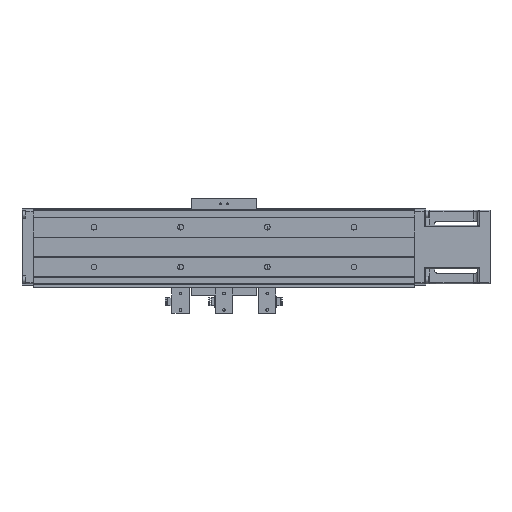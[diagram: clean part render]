
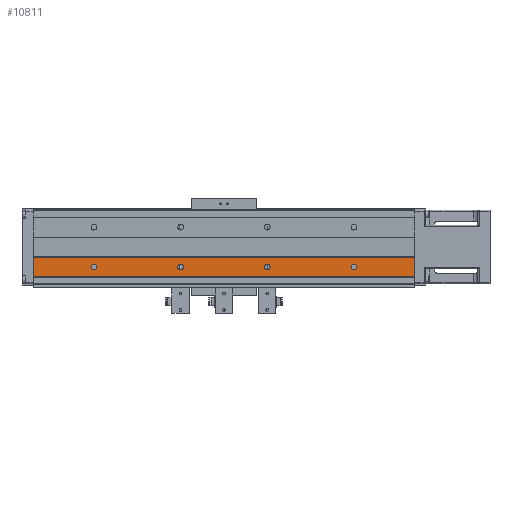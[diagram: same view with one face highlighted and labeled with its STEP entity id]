
A CAD part, front view. The second image highlights one B-rep face of the part: STEP entity #10811.
In plain terms, the highlighted planar face has unit normal (0, -1, 0).
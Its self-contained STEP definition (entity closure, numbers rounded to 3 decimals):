
#702 = ORIENTED_EDGE ( 'NONE', *, *, #32812, .T. ) ;
#861 = CIRCLE ( 'NONE', #8922, 3.3 ) ;
#1549 = CARTESIAN_POINT ( 'NONE',  ( 100., -32., -26.3 ) ) ;
#1751 = CARTESIAN_POINT ( 'NONE',  ( 0., -32., -26.3 ) ) ;
#1926 = DIRECTION ( 'NONE',  ( 0., 1., 0. ) ) ;
#1984 = FACE_BOUND ( 'NONE', #14978, .T. ) ;
#2105 = VERTEX_POINT ( 'NONE', #20985 ) ;
#2558 = EDGE_CURVE ( 'NONE', #15495, #34112, #32726, .T. ) ;
#3212 = CARTESIAN_POINT ( 'NONE',  ( -570., -32., -34. ) ) ;
#3409 = CARTESIAN_POINT ( 'NONE',  ( -270., -32., -34. ) ) ;
#3508 = CARTESIAN_POINT ( 'NONE',  ( 170., -32., -11.5 ) ) ;
#3534 = CARTESIAN_POINT ( 'NONE',  ( -200., -32., -23. ) ) ;
#4119 = VECTOR ( 'NONE', #6043, 1000. ) ;
#4585 = EDGE_LOOP ( 'NONE', ( #21128, #5313 ) ) ;
#5313 = ORIENTED_EDGE ( 'NONE', *, *, #2558, .T. ) ;
#5533 = FACE_BOUND ( 'NONE', #6125, .T. ) ;
#6043 = DIRECTION ( 'NONE',  ( 0., 0., -1. ) ) ;
#6125 = EDGE_LOOP ( 'NONE', ( #15080, #33911 ) ) ;
#7068 = ORIENTED_EDGE ( 'NONE', *, *, #39738, .T. ) ;
#7080 = CARTESIAN_POINT ( 'NONE',  ( 100., -32., -23. ) ) ;
#7142 = VERTEX_POINT ( 'NONE', #3508 ) ;
#8009 = DIRECTION ( 'NONE',  ( 0., -1., 0. ) ) ;
#8922 = AXIS2_PLACEMENT_3D ( 'NONE', #31226, #21253, #34614 ) ;
#9319 = CARTESIAN_POINT ( 'NONE',  ( 0., -32., -19.7 ) ) ;
#9827 = EDGE_CURVE ( 'NONE', #33048, #23278, #39795, .T. ) ;
#10356 = CARTESIAN_POINT ( 'NONE',  ( 100., -32., -19.7 ) ) ;
#10648 = FACE_OUTER_BOUND ( 'NONE', #37745, .T. ) ;
#10714 = DIRECTION ( 'NONE',  ( 1., 0., 0. ) ) ;
#10811 = ADVANCED_FACE ( 'NONE', ( #10648, #1984, #18746, #5533, #35581 ), #40510, .T. ) ;
#10816 = ORIENTED_EDGE ( 'NONE', *, *, #27901, .T. ) ;
#10864 = DIRECTION ( 'NONE',  ( 0., 1., 0. ) ) ;
#11102 = DIRECTION ( 'NONE',  ( 0., 0., -1. ) ) ;
#11324 = CARTESIAN_POINT ( 'NONE',  ( -100., -32., -26.3 ) ) ;
#11612 = EDGE_CURVE ( 'NONE', #32159, #31267, #39997, .T. ) ;
#13209 = CIRCLE ( 'NONE', #22803, 3.3 ) ;
#13675 = DIRECTION ( 'NONE',  ( 0., 0., -1. ) ) ;
#14109 = EDGE_CURVE ( 'NONE', #23233, #29595, #40297, .T. ) ;
#14111 = DIRECTION ( 'NONE',  ( 0., 1., 0. ) ) ;
#14592 = DIRECTION ( 'NONE',  ( -1., 0., 0. ) ) ;
#14835 = EDGE_CURVE ( 'NONE', #41279, #32509, #13209, .T. ) ;
#14978 = EDGE_LOOP ( 'NONE', ( #702, #18612 ) ) ;
#15018 = CARTESIAN_POINT ( 'NONE',  ( 0., -32., -23. ) ) ;
#15080 = ORIENTED_EDGE ( 'NONE', *, *, #14835, .T. ) ;
#15495 = VERTEX_POINT ( 'NONE', #17121 ) ;
#16196 = VECTOR ( 'NONE', #32511, 1000. ) ;
#16784 = DIRECTION ( 'NONE',  ( 0., 1., 0. ) ) ;
#16968 = DIRECTION ( 'NONE',  ( 0., 0., -1. ) ) ;
#16987 = VECTOR ( 'NONE', #10714, 1000. ) ;
#17121 = CARTESIAN_POINT ( 'NONE',  ( -100., -32., -19.7 ) ) ;
#17484 = CARTESIAN_POINT ( 'NONE',  ( 0., -32., -23. ) ) ;
#18612 = ORIENTED_EDGE ( 'NONE', *, *, #11612, .T. ) ;
#18671 = EDGE_CURVE ( 'NONE', #34112, #15495, #38701, .T. ) ;
#18746 = FACE_BOUND ( 'NONE', #4585, .T. ) ;
#18775 = CIRCLE ( 'NONE', #29513, 3.3 ) ;
#18915 = CARTESIAN_POINT ( 'NONE',  ( 170., -32., -34. ) ) ;
#19271 = EDGE_CURVE ( 'NONE', #32509, #41279, #21814, .T. ) ;
#20169 = DIRECTION ( 'NONE',  ( 0., 1., 0. ) ) ;
#20313 = CARTESIAN_POINT ( 'NONE',  ( 100., -32., -23. ) ) ;
#20384 = DIRECTION ( 'NONE',  ( 0., 0., -1. ) ) ;
#20598 = CARTESIAN_POINT ( 'NONE',  ( -200., -32., -19.7 ) ) ;
#20734 = DIRECTION ( 'NONE',  ( 0., 0., -1. ) ) ;
#20985 = CARTESIAN_POINT ( 'NONE',  ( 170., -32., -34. ) ) ;
#21128 = ORIENTED_EDGE ( 'NONE', *, *, #18671, .T. ) ;
#21253 = DIRECTION ( 'NONE',  ( 0., 1., 0. ) ) ;
#21528 = CARTESIAN_POINT ( 'NONE',  ( -200., -32., -26.3 ) ) ;
#21814 = CIRCLE ( 'NONE', #38503, 3.3 ) ;
#22803 = AXIS2_PLACEMENT_3D ( 'NONE', #15018, #1926, #27693 ) ;
#22830 = CARTESIAN_POINT ( 'NONE',  ( -270., -32., -11.5 ) ) ;
#23233 = VERTEX_POINT ( 'NONE', #10356 ) ;
#23278 = VERTEX_POINT ( 'NONE', #3409 ) ;
#23593 = DIRECTION ( 'NONE',  ( 0., 1., 0. ) ) ;
#25786 = AXIS2_PLACEMENT_3D ( 'NONE', #7080, #16784, #13675 ) ;
#26196 = AXIS2_PLACEMENT_3D ( 'NONE', #27675, #8009, #14592 ) ;
#26901 = LINE ( 'NONE', #3212, #16196 ) ;
#27033 = ORIENTED_EDGE ( 'NONE', *, *, #14109, .T. ) ;
#27278 = AXIS2_PLACEMENT_3D ( 'NONE', #39911, #10864, #20384 ) ;
#27675 = CARTESIAN_POINT ( 'NONE',  ( 170., -32., -33.6 ) ) ;
#27693 = DIRECTION ( 'NONE',  ( 0., 0., -1. ) ) ;
#27901 = EDGE_CURVE ( 'NONE', #23278, #2105, #26901, .T. ) ;
#28487 = DIRECTION ( 'NONE',  ( 0., 0., 1. ) ) ;
#29513 = AXIS2_PLACEMENT_3D ( 'NONE', #20313, #23593, #20734 ) ;
#29595 = VERTEX_POINT ( 'NONE', #1549 ) ;
#29886 = LINE ( 'NONE', #18915, #39587 ) ;
#30118 = ORIENTED_EDGE ( 'NONE', *, *, #9827, .T. ) ;
#31029 = ORIENTED_EDGE ( 'NONE', *, *, #41365, .T. ) ;
#31226 = CARTESIAN_POINT ( 'NONE',  ( -200., -32., -23. ) ) ;
#31267 = VERTEX_POINT ( 'NONE', #21528 ) ;
#32159 = VERTEX_POINT ( 'NONE', #20598 ) ;
#32509 = VERTEX_POINT ( 'NONE', #9319 ) ;
#32511 = DIRECTION ( 'NONE',  ( 1., 0., 0. ) ) ;
#32726 = CIRCLE ( 'NONE', #37338, 3.3 ) ;
#32727 = AXIS2_PLACEMENT_3D ( 'NONE', #3534, #20169, #33525 ) ;
#32812 = EDGE_CURVE ( 'NONE', #31267, #32159, #861, .T. ) ;
#33048 = VERTEX_POINT ( 'NONE', #22830 ) ;
#33168 = CARTESIAN_POINT ( 'NONE',  ( -100., -32., -23. ) ) ;
#33313 = DIRECTION ( 'NONE',  ( 0., 1., 0. ) ) ;
#33525 = DIRECTION ( 'NONE',  ( 0., 0., -1. ) ) ;
#33911 = ORIENTED_EDGE ( 'NONE', *, *, #19271, .T. ) ;
#34112 = VERTEX_POINT ( 'NONE', #11324 ) ;
#34495 = EDGE_CURVE ( 'NONE', #33048, #7142, #38903, .T. ) ;
#34614 = DIRECTION ( 'NONE',  ( 0., 0., -1. ) ) ;
#35256 = ORIENTED_EDGE ( 'NONE', *, *, #34495, .F. ) ;
#35581 = FACE_BOUND ( 'NONE', #41217, .T. ) ;
#37338 = AXIS2_PLACEMENT_3D ( 'NONE', #33168, #33313, #16968 ) ;
#37745 = EDGE_LOOP ( 'NONE', ( #30118, #10816, #31029, #35256 ) ) ;
#38503 = AXIS2_PLACEMENT_3D ( 'NONE', #17484, #14111, #11102 ) ;
#38701 = CIRCLE ( 'NONE', #27278, 3.3 ) ;
#38903 = LINE ( 'NONE', #40056, #16987 ) ;
#39587 = VECTOR ( 'NONE', #28487, 1000. ) ;
#39738 = EDGE_CURVE ( 'NONE', #29595, #23233, #18775, .T. ) ;
#39795 = LINE ( 'NONE', #41669, #4119 ) ;
#39911 = CARTESIAN_POINT ( 'NONE',  ( -100., -32., -23. ) ) ;
#39997 = CIRCLE ( 'NONE', #32727, 3.3 ) ;
#40056 = CARTESIAN_POINT ( 'NONE',  ( -570., -32., -11.5 ) ) ;
#40297 = CIRCLE ( 'NONE', #25786, 3.3 ) ;
#40510 = PLANE ( 'NONE',  #26196 ) ;
#41217 = EDGE_LOOP ( 'NONE', ( #7068, #27033 ) ) ;
#41279 = VERTEX_POINT ( 'NONE', #1751 ) ;
#41365 = EDGE_CURVE ( 'NONE', #2105, #7142, #29886, .T. ) ;
#41669 = CARTESIAN_POINT ( 'NONE',  ( -270., -32., -16.8 ) ) ;
